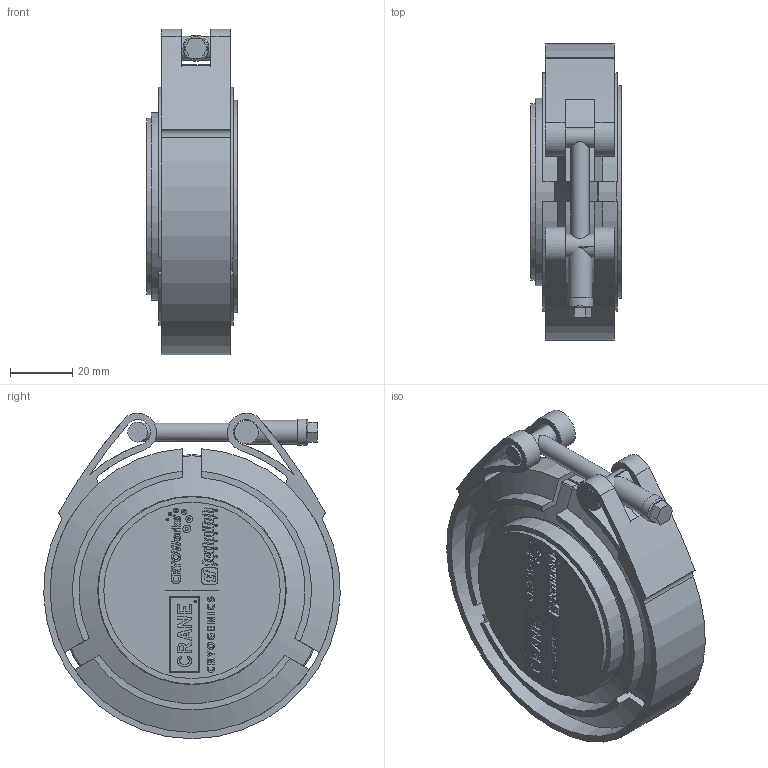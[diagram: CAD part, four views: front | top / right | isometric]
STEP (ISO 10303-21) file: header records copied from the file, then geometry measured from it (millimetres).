
FILE_DESCRIPTION (( 'STEP AP203' ), '1' );
FILE_NAME ('1IN T100^PucksSLDASM.STEP', '2026-02-03T18:08:14', ( '' ), ( '' ), 'SwSTEP 2.0', 'SolidWorks 2023', '' );
FILE_SCHEMA (( 'CONFIG_CONTROL_DESIGN' ));
Length unit declared in the file: inch
Products named in the file (4): Copy of M 2.5in NPS^1IN T100_PucksSLDASM; Copy of F 2 NPS^1IN T100_PucksSLDASM; 1IN T100^PucksSLDASM; T100 CLAMP
Assembly tree (3 placements, depth 2):
  1IN T100^PucksSLDASM
    Copy of F 2 NPS^1IN T100_PucksSLDASM
    Copy of M 2.5in NPS^1IN T100_PucksSLDASM
    T100 CLAMP
Bounding box: 29.21 x 95.38 x 104.69 mm (x, y, z)
Volume: 159236.4 mm3; surface area: 64419.7 mm2
Topology: 4 solids, 4 shells, 1252 faces, 3219 edges, 2142 vertices
Faces by surface type: plane 943, cylinder 184, bspline 106, cone 14, torus 5
Full cylindrical faces by diameter (mm): 0.347 x1, 0.38 x1, 0.412 x1, 0.418 x1, 0.458 x1, 0.473 x1, 0.498 x1, 0.534 x1, 0.571 x1, 0.645 x1, 0.688 x1, 0.712 x1, 0.791 x1, 0.831 x1, 0.843 x1, 0.86 x1, 0.883 x1, 0.93 x1, 0.954 x1, 1.017 x1, 1.061 x1, 1.066 x1, 1.123 x1, 1.28 x1, 1.433 x1, 1.729 x1, 1.77 x1, 2.137 x1, 2.142 x1, 2.494 x1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
Entity records: 43900 total; most frequent: CARTESIAN_POINT 13586, ORIENTED_EDGE 6300, DIRECTION 5606, EDGE_CURVE 3150, VECTOR 2518, LINE 2518, VERTEX_POINT 2140, AXIS2_PLACEMENT_3D 1544
